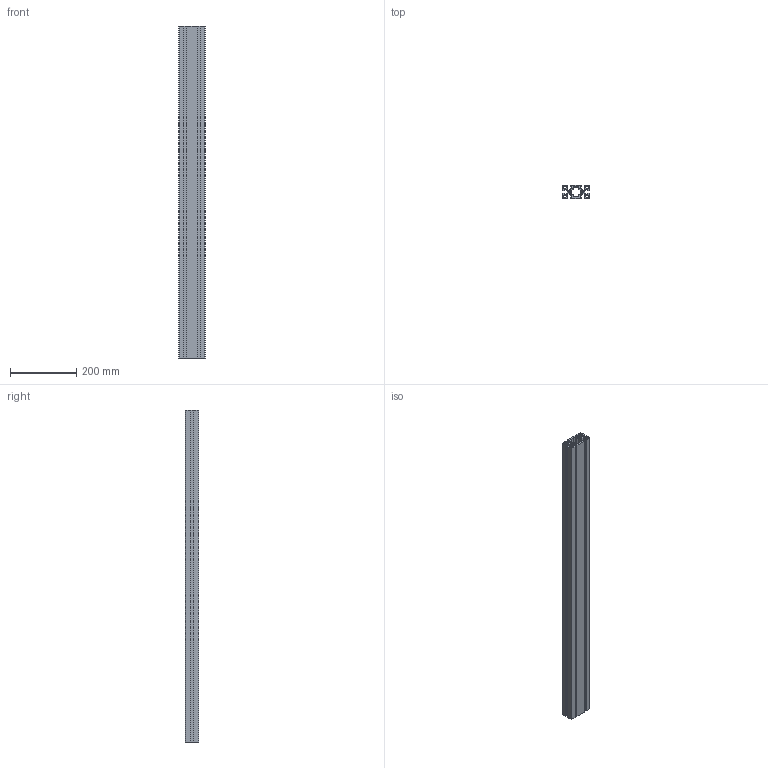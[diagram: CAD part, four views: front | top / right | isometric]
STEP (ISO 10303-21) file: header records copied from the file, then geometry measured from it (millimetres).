
FILE_DESCRIPTION(/* description */ (''),/* implementation_level */ '2;1');
FILE_NAME(/* name */ 'C:\Users\AMS43\Documents\Inventor\AMS\misumi\\X2\30D530EC30FC30E0\X0\_ipt\フレーム_stp\AFS-4080-8.ipt.stp',/* time_stamp */ '2016-10-06T11:44:07+09:00',/* author */ ('AMS43'),/* organization */ (''),/* preprocessor_version */ 'ST-DEVELOPER v15.2',/* originating_system */ 'Autodesk Inventor 2014',/* authorisation */ '');
FILE_SCHEMA (('AUTOMOTIVE_DESIGN { 1 0 10303 214 3 1 1 }'));
Length unit declared in the file: metre
Products named in the file (1): AFS-4080-8
Bounding box: 80 x 40 x 1000 mm (x, y, z)
Volume: 1326571.7 mm3; surface area: 719554.7 mm2
Topology: 1 solids, 1 shells, 112 faces, 330 edges, 220 vertices
Faces by surface type: plane 90, cylinder 22
Full cylindrical faces by diameter (mm): 6.8 x2, 8 x4
Entity records: 3727 total; most frequent: CARTESIAN_POINT 657, ORIENTED_EDGE 648, DIRECTION 594, EDGE_CURVE 324, LINE 280, VECTOR 280, VERTEX_POINT 220, AXIS2_PLACEMENT_3D 157
